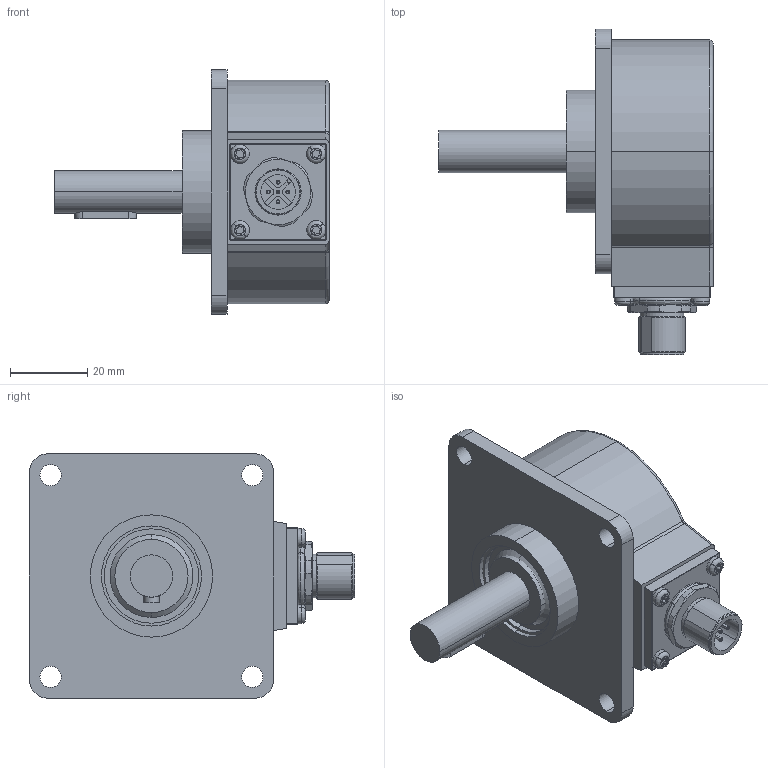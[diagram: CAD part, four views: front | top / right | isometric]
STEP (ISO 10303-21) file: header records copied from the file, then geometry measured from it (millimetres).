
FILE_DESCRIPTION (( 'STEP AP203' ), '1' );
FILE_NAME ('K58I.OXX.XXXXX.XS3Q511.6XRC6.step', '2025-12-08T15:49:56', ( '' ), ( '' ), 'SwSTEP 2.0', 'SolidWorks 2021', '' );
FILE_SCHEMA (( 'CONFIG_CONTROL_DESIGN' ));
Length unit declared in the file: millimetre
Products named in the file (1): K58I.OXX.XXXXX.XS3Q511.6XRC6
Bounding box: 71.19 x 84.55 x 63.5 mm (x, y, z)
Surface area: 34495.8 mm2 (no closed solid volume)
Topology: 0 solids, 12 shells, 332 faces, 795 edges, 513 vertices
Faces by surface type: cylinder 178, plane 100, cone 25, bspline 24, torus 5
Entity records: 11582 total; most frequent: CARTESIAN_POINT 3666, DIRECTION 1739, ORIENTED_EDGE 1574, EDGE_CURVE 795, AXIS2_PLACEMENT_3D 722, VERTEX_POINT 513, CIRCLE 413, EDGE_LOOP 382
